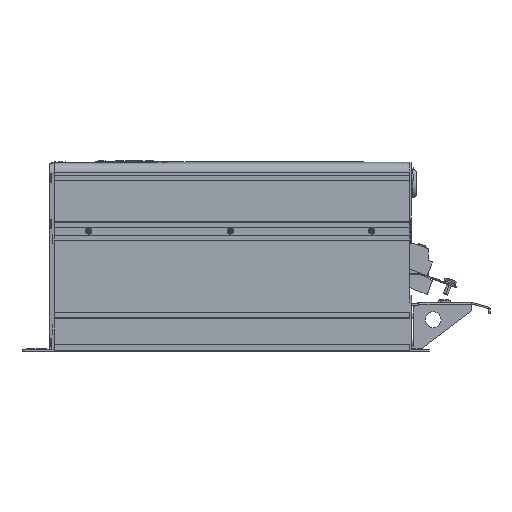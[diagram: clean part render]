
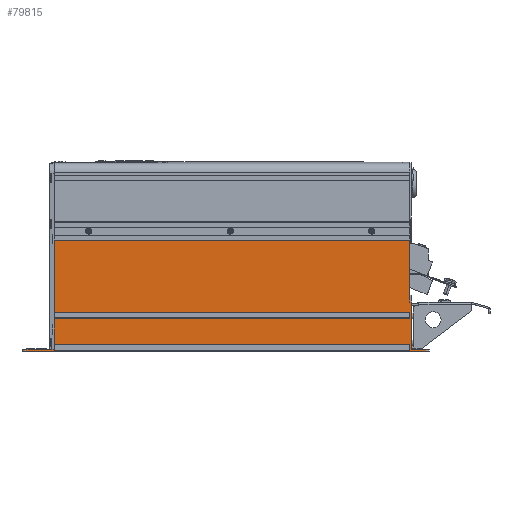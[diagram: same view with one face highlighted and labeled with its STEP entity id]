
A CAD part, left-side view. The second image highlights one B-rep face of the part: STEP entity #79815.
In plain terms, the highlighted planar face has unit normal (-1, 0, 0).
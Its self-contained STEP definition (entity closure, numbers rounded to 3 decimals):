
#6158=DIRECTION('',(0.,0.,1.));
#6159=VECTOR('',#6158,8.);
#6160=CARTESIAN_POINT('',(-115.,-227.95,1.1));
#6161=LINE('',#6160,#6159);
#6182=DIRECTION('',(0.,0.,1.));
#6183=VECTOR('',#6182,6.6);
#6184=CARTESIAN_POINT('',(-115.,-227.95,42.1));
#6185=LINE('',#6184,#6183);
#6612=DIRECTION('',(0.,0.,1.));
#6613=VECTOR('',#6612,78.6);
#6614=CARTESIAN_POINT('',(-115.,-227.95,62.5));
#6615=LINE('',#6614,#6613);
#8322=DIRECTION('',(0.,-1.,0.));
#8323=VECTOR('',#8322,36.);
#8324=CARTESIAN_POINT('',(-115.,259.75,0.));
#8325=LINE('',#8324,#8323);
#8366=DIRECTION('',(0.,-1.,0.));
#8367=VECTOR('',#8366,460.);
#8368=CARTESIAN_POINT('',(-115.,211.75,0.));
#8369=LINE('',#8368,#8367);
#8494=DIRECTION('',(0.,1.,0.));
#8495=VECTOR('',#8494,12.);
#8496=CARTESIAN_POINT('',(-115.,211.75,1.));
#8497=LINE('',#8496,#8495);
#8498=DIRECTION('',(0.,0.,1.));
#8499=VECTOR('',#8498,1.);
#8500=CARTESIAN_POINT('',(-115.,223.75,0.));
#8501=LINE('',#8500,#8499);
#8502=DIRECTION('',(0.,-1.,0.));
#8503=VECTOR('',#8502,451.7);
#8504=CARTESIAN_POINT('',(-115.,223.75,1.1));
#8505=LINE('',#8504,#8503);
#8506=DIRECTION('',(0.,-1.,0.));
#8507=VECTOR('',#8506,451.7);
#8508=CARTESIAN_POINT('',(-115.,223.75,9.1));
#8509=LINE('',#8508,#8507);
#8510=DIRECTION('',(0.,0.,-1.));
#8511=VECTOR('',#8510,12.4);
#8512=CARTESIAN_POINT('',(-115.,223.75,21.5));
#8513=LINE('',#8512,#8511);
#8514=DIRECTION('',(0.,0.,-1.));
#8515=VECTOR('',#8514,8.6);
#8516=CARTESIAN_POINT('',(-115.,223.75,42.1));
#8517=LINE('',#8516,#8515);
#8518=DIRECTION('',(0.,-1.,0.));
#8519=VECTOR('',#8518,451.7);
#8520=CARTESIAN_POINT('',(-115.,223.75,42.1));
#8521=LINE('',#8520,#8519);
#8522=DIRECTION('',(0.,-1.,0.));
#8523=VECTOR('',#8522,451.7);
#8524=CARTESIAN_POINT('',(-115.,223.75,48.7));
#8525=LINE('',#8524,#8523);
#8526=DIRECTION('',(0.,0.,-1.));
#8527=VECTOR('',#8526,87.8);
#8528=CARTESIAN_POINT('',(-115.,223.75,136.5));
#8529=LINE('',#8528,#8527);
#8530=DIRECTION('',(0.,-1.,0.));
#8531=VECTOR('',#8530,451.7);
#8532=CARTESIAN_POINT('',(-115.,223.75,141.1));
#8533=LINE('',#8532,#8531);
#8534=DIRECTION('',(0.,-1.,0.));
#8535=VECTOR('',#8534,2.5);
#8536=CARTESIAN_POINT('',(-115.,-227.95,62.5));
#8537=LINE('',#8536,#8535);
#8538=DIRECTION('',(0.,0.,-1.));
#8539=VECTOR('',#8538,60.);
#8540=CARTESIAN_POINT('',(-115.,-230.45,62.5));
#8541=LINE('',#8540,#8539);
#8542=DIRECTION('',(0.,-1.,0.));
#8543=VECTOR('',#8542,17.8);
#8544=CARTESIAN_POINT('',(-115.,-230.45,2.5));
#8545=LINE('',#8544,#8543);
#8546=DIRECTION('',(0.,0.,1.));
#8547=VECTOR('',#8546,2.5);
#8548=CARTESIAN_POINT('',(-115.,-248.25,0.));
#8549=LINE('',#8548,#8547);
#8550=DIRECTION('',(0.,0.,1.));
#8551=VECTOR('',#8550,1.);
#8552=CARTESIAN_POINT('',(-115.,211.75,0.));
#8553=LINE('',#8552,#8551);
#8638=DIRECTION('',(0.,0.,-1.));
#8639=VECTOR('',#8638,12.);
#8640=CARTESIAN_POINT('',(-115.,223.75,33.5));
#8641=LINE('',#8640,#8639);
#8840=DIRECTION('',(0.,0.,-1.));
#8841=VECTOR('',#8840,4.6);
#8842=CARTESIAN_POINT('',(-115.,223.75,141.1));
#8843=LINE('',#8842,#8841);
#8900=DIRECTION('',(0.,0.,1.));
#8901=VECTOR('',#8900,1.4);
#8902=CARTESIAN_POINT('',(-115.,223.75,1.1));
#8903=LINE('',#8902,#8901);
#13963=DIRECTION('',(0.,1.,0.));
#13964=VECTOR('',#13963,33.);
#13965=CARTESIAN_POINT('',(-115.,226.75,2.5));
#13966=LINE('',#13965,#13964);
#19908=DIRECTION('',(0.,1.,0.));
#19909=VECTOR('',#19908,3.);
#19910=CARTESIAN_POINT('',(-115.,223.75,2.5));
#19911=LINE('',#19910,#19909);
#42760=DIRECTION('',(0.,0.,1.));
#42761=VECTOR('',#42760,2.5);
#42762=CARTESIAN_POINT('',(-115.,259.75,0.));
#42763=LINE('',#42762,#42761);
#55135=CARTESIAN_POINT('',(-115.,223.75,136.5));
#55136=VERTEX_POINT('',#55135);
#55207=CARTESIAN_POINT('',(-115.,223.75,21.5));
#55209=VERTEX_POINT('',#55207);
#55211=CARTESIAN_POINT('',(-115.,223.75,33.5));
#55213=VERTEX_POINT('',#55211);
#57724=CARTESIAN_POINT('',(-115.,223.75,9.1));
#57725=VERTEX_POINT('',#57724);
#57736=CARTESIAN_POINT('',(-115.,223.75,141.1));
#57737=VERTEX_POINT('',#57736);
#57748=CARTESIAN_POINT('',(-115.,-227.95,141.1));
#57749=VERTEX_POINT('',#57748);
#57812=CARTESIAN_POINT('',(-115.,259.75,0.));
#57814=VERTEX_POINT('',#57812);
#57822=CARTESIAN_POINT('',(-115.,259.75,2.5));
#57824=VERTEX_POINT('',#57822);
#57830=CARTESIAN_POINT('',(-115.,226.75,2.5));
#57831=VERTEX_POINT('',#57830);
#57836=CARTESIAN_POINT('',(-115.,223.75,1.1));
#57837=CARTESIAN_POINT('',(-115.,223.75,2.5));
#57838=VERTEX_POINT('',#57836);
#57839=VERTEX_POINT('',#57837);
#57868=CARTESIAN_POINT('',(-115.,-227.95,1.1));
#57869=CARTESIAN_POINT('',(-115.,-227.95,9.1));
#57870=VERTEX_POINT('',#57868);
#57871=VERTEX_POINT('',#57869);
#57908=CARTESIAN_POINT('',(-115.,-248.25,2.5));
#57910=VERTEX_POINT('',#57908);
#57914=CARTESIAN_POINT('',(-115.,-248.25,0.));
#57915=VERTEX_POINT('',#57914);
#57924=CARTESIAN_POINT('',(-115.,-230.45,2.5));
#57925=VERTEX_POINT('',#57924);
#57964=CARTESIAN_POINT('',(-115.,-227.95,62.5));
#57965=CARTESIAN_POINT('',(-115.,-230.45,62.5));
#57966=VERTEX_POINT('',#57964);
#57967=VERTEX_POINT('',#57965);
#59232=CARTESIAN_POINT('',(-115.,223.75,48.7));
#59233=VERTEX_POINT('',#59232);
#59238=CARTESIAN_POINT('',(-115.,223.75,42.1));
#59239=VERTEX_POINT('',#59238);
#59248=CARTESIAN_POINT('',(-115.,-227.95,42.1));
#59249=CARTESIAN_POINT('',(-115.,-227.95,48.7));
#59250=VERTEX_POINT('',#59248);
#59251=VERTEX_POINT('',#59249);
#63108=CARTESIAN_POINT('',(-115.,211.75,1.));
#63109=CARTESIAN_POINT('',(-115.,223.75,1.));
#63110=VERTEX_POINT('',#63108);
#63111=VERTEX_POINT('',#63109);
#63112=CARTESIAN_POINT('',(-115.,211.75,0.));
#63113=VERTEX_POINT('',#63112);
#63114=CARTESIAN_POINT('',(-115.,223.75,0.));
#63115=VERTEX_POINT('',#63114);
#79765=CARTESIAN_POINT('',(-115.,223.75,227.));
#79766=DIRECTION('',(-1.,0.,0.));
#79767=DIRECTION('',(0.,0.,-1.));
#79768=AXIS2_PLACEMENT_3D('',#79765,#79766,#79767);
#79769=PLANE('',#79768);
#79771=ORIENTED_EDGE('',*,*,#79770,.T.);
#79772=ORIENTED_EDGE('',*,*,#79667,.F.);
#79773=ORIENTED_EDGE('',*,*,#79531,.F.);
#79775=ORIENTED_EDGE('',*,*,#79774,.T.);
#79777=ORIENTED_EDGE('',*,*,#79776,.F.);
#79779=ORIENTED_EDGE('',*,*,#79778,.F.);
#79781=ORIENTED_EDGE('',*,*,#79780,.F.);
#79783=ORIENTED_EDGE('',*,*,#79782,.T.);
#79784=ORIENTED_EDGE('',*,*,#75268,.T.);
#79786=ORIENTED_EDGE('',*,*,#79785,.F.);
#79788=ORIENTED_EDGE('',*,*,#79787,.F.);
#79790=ORIENTED_EDGE('',*,*,#79789,.F.);
#79792=ORIENTED_EDGE('',*,*,#79791,.F.);
#79794=ORIENTED_EDGE('',*,*,#79793,.T.);
#79795=ORIENTED_EDGE('',*,*,#75314,.T.);
#79797=ORIENTED_EDGE('',*,*,#79796,.F.);
#79799=ORIENTED_EDGE('',*,*,#79798,.F.);
#79801=ORIENTED_EDGE('',*,*,#79800,.F.);
#79803=ORIENTED_EDGE('',*,*,#79802,.T.);
#79804=ORIENTED_EDGE('',*,*,#75399,.F.);
#79806=ORIENTED_EDGE('',*,*,#79805,.T.);
#79807=ORIENTED_EDGE('',*,*,#75019,.T.);
#79808=ORIENTED_EDGE('',*,*,#79352,.T.);
#79809=ORIENTED_EDGE('',*,*,#79402,.F.);
#79810=ORIENTED_EDGE('',*,*,#79568,.F.);
#79812=ORIENTED_EDGE('',*,*,#79811,.T.);
#79813=EDGE_LOOP('',(#79771,#79772,#79773,#79775,#79777,#79779,#79781,#79783,
#79784,#79786,#79788,#79790,#79792,#79794,#79795,#79797,#79799,#79801,#79803,
#79804,#79806,#79807,#79808,#79809,#79810,#79812));
#79814=FACE_OUTER_BOUND('',#79813,.F.);
#79815=ADVANCED_FACE('',(#79814),#79769,.T.);
#75019=EDGE_CURVE('',#57967,#57925,#8541,.T.);
#75268=EDGE_CURVE('',#57870,#57871,#6161,.T.);
#75314=EDGE_CURVE('',#59250,#59251,#6185,.T.);
#75399=EDGE_CURVE('',#57966,#57749,#6615,.T.);
#79352=EDGE_CURVE('',#57925,#57910,#8545,.T.);
#79402=EDGE_CURVE('',#57915,#57910,#8549,.T.);
#79531=EDGE_CURVE('',#57814,#63115,#8325,.T.);
#79568=EDGE_CURVE('',#63113,#57915,#8369,.T.);
#79667=EDGE_CURVE('',#63115,#63111,#8501,.T.);
#79770=EDGE_CURVE('',#63110,#63111,#8497,.T.);
#79774=EDGE_CURVE('',#57814,#57824,#42763,.T.);
#79776=EDGE_CURVE('',#57831,#57824,#13966,.T.);
#79778=EDGE_CURVE('',#57839,#57831,#19911,.T.);
#79780=EDGE_CURVE('',#57838,#57839,#8903,.T.);
#79782=EDGE_CURVE('',#57838,#57870,#8505,.T.);
#79785=EDGE_CURVE('',#57725,#57871,#8509,.T.);
#79787=EDGE_CURVE('',#55209,#57725,#8513,.T.);
#79789=EDGE_CURVE('',#55213,#55209,#8641,.T.);
#79791=EDGE_CURVE('',#59239,#55213,#8517,.T.);
#79793=EDGE_CURVE('',#59239,#59250,#8521,.T.);
#79796=EDGE_CURVE('',#59233,#59251,#8525,.T.);
#79798=EDGE_CURVE('',#55136,#59233,#8529,.T.);
#79800=EDGE_CURVE('',#57737,#55136,#8843,.T.);
#79802=EDGE_CURVE('',#57737,#57749,#8533,.T.);
#79805=EDGE_CURVE('',#57966,#57967,#8537,.T.);
#79811=EDGE_CURVE('',#63113,#63110,#8553,.T.);
